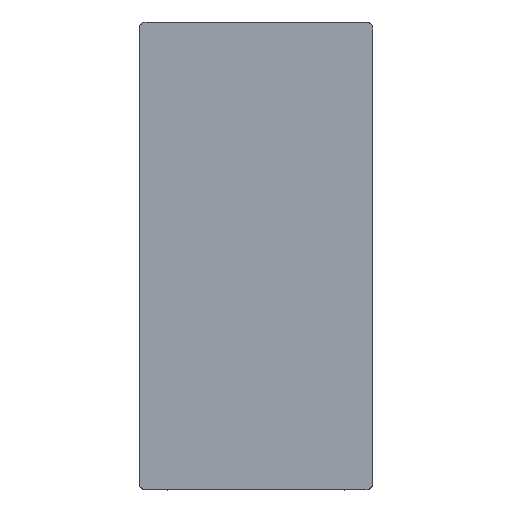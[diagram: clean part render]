
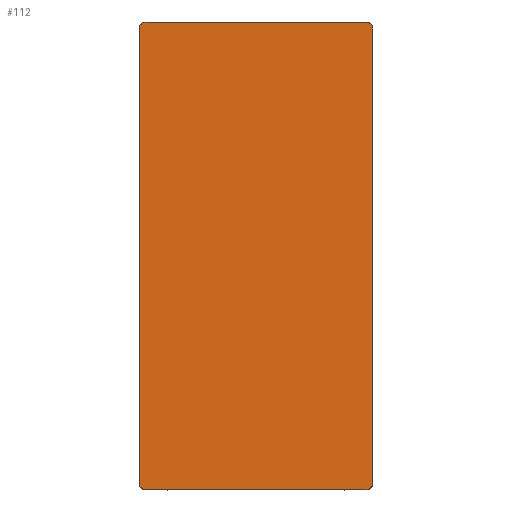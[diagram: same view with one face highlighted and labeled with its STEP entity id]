
A CAD part, top view. The second image highlights one B-rep face of the part: STEP entity #112.
In plain terms, the highlighted planar face has unit normal (0, 0, 1).
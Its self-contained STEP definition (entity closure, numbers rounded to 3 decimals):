
#112=ADVANCED_FACE($,(#342),#2814,.T.);
#342=FACE_OUTER_BOUND($,#572,.T.);
#572=EDGE_LOOP($,(#836,#837,#838,#839,#840,#841,#842,#843));
#836=ORIENTED_EDGE($,*,*,#1879,.T.);
#837=ORIENTED_EDGE($,*,*,#1884,.T.);
#838=ORIENTED_EDGE($,*,*,#1876,.T.);
#839=ORIENTED_EDGE($,*,*,#1885,.T.);
#840=ORIENTED_EDGE($,*,*,#1877,.T.);
#841=ORIENTED_EDGE($,*,*,#1886,.T.);
#842=ORIENTED_EDGE($,*,*,#1878,.T.);
#843=ORIENTED_EDGE($,*,*,#1887,.T.);
#1876=EDGE_CURVE($,#2405,#2404,#3070,.T.);
#1877=EDGE_CURVE($,#2407,#2406,#3071,.T.);
#1878=EDGE_CURVE($,#2409,#2408,#3072,.T.);
#1879=EDGE_CURVE($,#2411,#2410,#3073,.T.);
#1884=EDGE_CURVE($,#2410,#2405,#2918,.T.);
#1885=EDGE_CURVE($,#2404,#2407,#2919,.T.);
#1886=EDGE_CURVE($,#2406,#2409,#2920,.T.);
#1887=EDGE_CURVE($,#2408,#2411,#2921,.T.);
#2404=VERTEX_POINT($,#3870);
#2405=VERTEX_POINT($,#3871);
#2406=VERTEX_POINT($,#3872);
#2407=VERTEX_POINT($,#3873);
#2408=VERTEX_POINT($,#3874);
#2409=VERTEX_POINT($,#3875);
#2410=VERTEX_POINT($,#3876);
#2411=VERTEX_POINT($,#3877);
#2814=PLANE($,#3528);
#2918=(
BOUNDED_CURVE()
B_SPLINE_CURVE(2,(#3764,#3765,#3766),.UNSPECIFIED.,.F.,.F.)
B_SPLINE_CURVE_WITH_KNOTS((3,3),(-1.,0.),.UNSPECIFIED.)
CURVE()
GEOMETRIC_REPRESENTATION_ITEM()
RATIONAL_B_SPLINE_CURVE((1.,0.707,1.))
REPRESENTATION_ITEM($)
);
#2919=(
BOUNDED_CURVE()
B_SPLINE_CURVE(2,(#3767,#3768,#3769),.UNSPECIFIED.,.F.,.F.)
B_SPLINE_CURVE_WITH_KNOTS((3,3),(0.,1.),.UNSPECIFIED.)
CURVE()
GEOMETRIC_REPRESENTATION_ITEM()
RATIONAL_B_SPLINE_CURVE((1.,0.707,1.))
REPRESENTATION_ITEM($)
);
#2920=(
BOUNDED_CURVE()
B_SPLINE_CURVE(2,(#3770,#3771,#3772),.UNSPECIFIED.,.F.,.F.)
B_SPLINE_CURVE_WITH_KNOTS((3,3),(0.,1.),.UNSPECIFIED.)
CURVE()
GEOMETRIC_REPRESENTATION_ITEM()
RATIONAL_B_SPLINE_CURVE((1.,0.707,1.))
REPRESENTATION_ITEM($)
);
#2921=(
BOUNDED_CURVE()
B_SPLINE_CURVE(2,(#3773,#3774,#3775),.UNSPECIFIED.,.F.,.F.)
B_SPLINE_CURVE_WITH_KNOTS((3,3),(0.,1.),.UNSPECIFIED.)
CURVE()
GEOMETRIC_REPRESENTATION_ITEM()
RATIONAL_B_SPLINE_CURVE((1.,0.707,1.))
REPRESENTATION_ITEM($)
);
#3070=B_SPLINE_CURVE_WITH_KNOTS($,1,(#3744,#3745),.UNSPECIFIED.,.F.,.F.,
(2,2),(30.,970.),.UNSPECIFIED.);
#3071=B_SPLINE_CURVE_WITH_KNOTS($,1,(#3746,#3747),.UNSPECIFIED.,.F.,.F.,
(2,2),(30.,1970.),.UNSPECIFIED.);
#3072=B_SPLINE_CURVE_WITH_KNOTS($,1,(#3748,#3749),.UNSPECIFIED.,.F.,.F.,
(2,2),(30.,970.),.UNSPECIFIED.);
#3073=B_SPLINE_CURVE_WITH_KNOTS($,1,(#3750,#3751),.UNSPECIFIED.,.F.,.F.,
(2,2),(30.,1970.),.UNSPECIFIED.);
#3528=AXIS2_PLACEMENT_3D($,#3810,#3633,$);
#3633=DIRECTION($,(0.,0.,1.));
#3744=CARTESIAN_POINT($,(30.,0.,734.));
#3745=CARTESIAN_POINT($,(970.,0.,734.));
#3746=CARTESIAN_POINT($,(1000.,30.,734.));
#3747=CARTESIAN_POINT($,(1000.,1970.,734.));
#3748=CARTESIAN_POINT($,(970.,2000.,734.));
#3749=CARTESIAN_POINT($,(30.,2000.,734.));
#3750=CARTESIAN_POINT($,(0.,1970.,734.));
#3751=CARTESIAN_POINT($,(0.,30.,734.));
#3764=CARTESIAN_POINT($,(0.,30.,734.));
#3765=CARTESIAN_POINT($,(0.,0.,734.));
#3766=CARTESIAN_POINT($,(30.,0.,734.));
#3767=CARTESIAN_POINT($,(970.,0.,734.));
#3768=CARTESIAN_POINT($,(1000.,0.,734.));
#3769=CARTESIAN_POINT($,(1000.,30.,734.));
#3770=CARTESIAN_POINT($,(1000.,1970.,734.));
#3771=CARTESIAN_POINT($,(1000.,2000.,734.));
#3772=CARTESIAN_POINT($,(970.,2000.,734.));
#3773=CARTESIAN_POINT($,(30.,2000.,734.));
#3774=CARTESIAN_POINT($,(0.,2000.,734.));
#3775=CARTESIAN_POINT($,(0.,1970.,734.));
#3810=CARTESIAN_POINT($,(0.,0.,734.));
#3870=CARTESIAN_POINT($,(970.,0.,734.));
#3871=CARTESIAN_POINT($,(30.,0.,734.));
#3872=CARTESIAN_POINT($,(1000.,1970.,734.));
#3873=CARTESIAN_POINT($,(1000.,30.,734.));
#3874=CARTESIAN_POINT($,(30.,2000.,734.));
#3875=CARTESIAN_POINT($,(970.,2000.,734.));
#3876=CARTESIAN_POINT($,(0.,30.,734.));
#3877=CARTESIAN_POINT($,(0.,1970.,734.));
